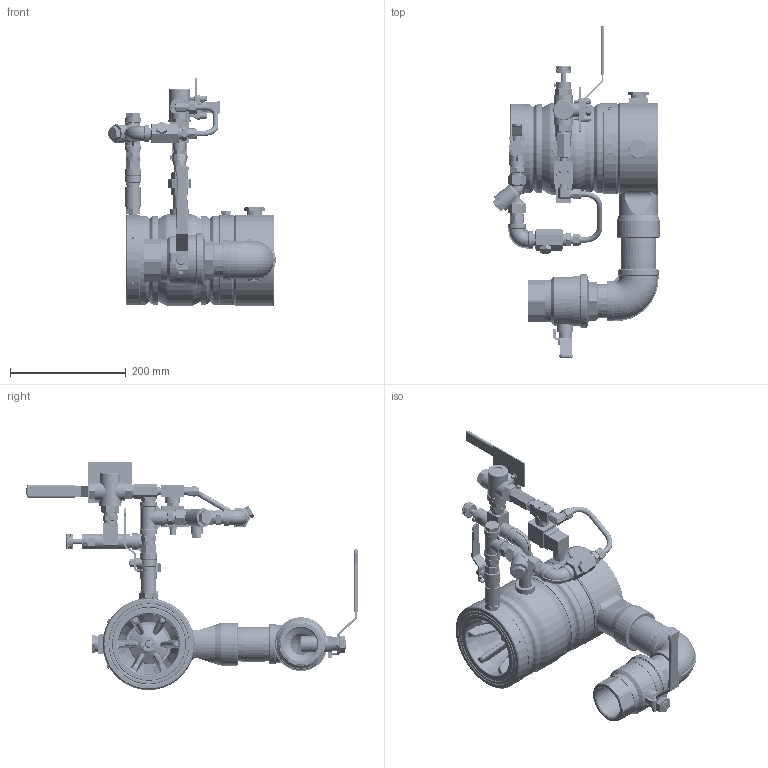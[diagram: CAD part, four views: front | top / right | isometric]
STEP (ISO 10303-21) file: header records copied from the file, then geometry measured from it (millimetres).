
FILE_DESCRIPTION(/* description */ (''),/* implementation_level */ '2;1');
FILE_NAME(/* name */ 'Z:\STANDARD SYSTEM\700DX-02HME\STEP\799DX-02HME01-0 4in.stp',/* time_stamp */ '2023-02-08T15:10:45+02:00',/* author */ ('alex'),/* organization */ (''),/* preprocessor_version */ 'ST-DEVELOPER v16.13',/* originating_system */ 'Autodesk Inventor 2018',/* authorisation */ '');
FILE_SCHEMA (('AUTOMOTIVE_DESIGN { 1 0 10303 214 3 1 1 }'));
Length unit declared in the file: inch
Products named in the file (1): 799DX-02HME01-0 4in STEP_Shrinkwrap_1
Bounding box: 289.76 x 573.93 x 395 mm (x, y, z)
Volume: 3541740.8 mm3; surface area: 1039166.9 mm2
Topology: 71 solids, 72 shells, 4620 faces, 11218 edges, 7112 vertices
Faces by surface type: plane 2822, cylinder 817, cone 567, bspline 305, torus 103, sphere 6
Full cylindrical faces by diameter (mm): 0.625 x1, 2 x2, 2.487 x4, 3.242 x1, 3.5 x1, 4 x15, 4.134 x2, 4.5 x4, 5 x2, 5.25 x2, 5.8 x4, 6 x1, 6.647 x1, 6.88 x2, 7 x4, 7.036 x3, 7.2 x2, 7.6 x3, 8 x1, 8.376 x1, 9 x1, 9.5 x2, 9.525 x3, 9.6 x3, 9.7 x6, 9.8 x1, 10 x4, 10.5 x3, 10.6 x2, 11 x1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
Entity records: 151698 total; most frequent: CARTESIAN_POINT 41110, DIRECTION 23081, ORIENTED_EDGE 21032, EDGE_CURVE 10501, AXIS2_PLACEMENT_3D 9583, VERTEX_POINT 6988, EDGE_LOOP 5761, STYLED_ITEM 4689
